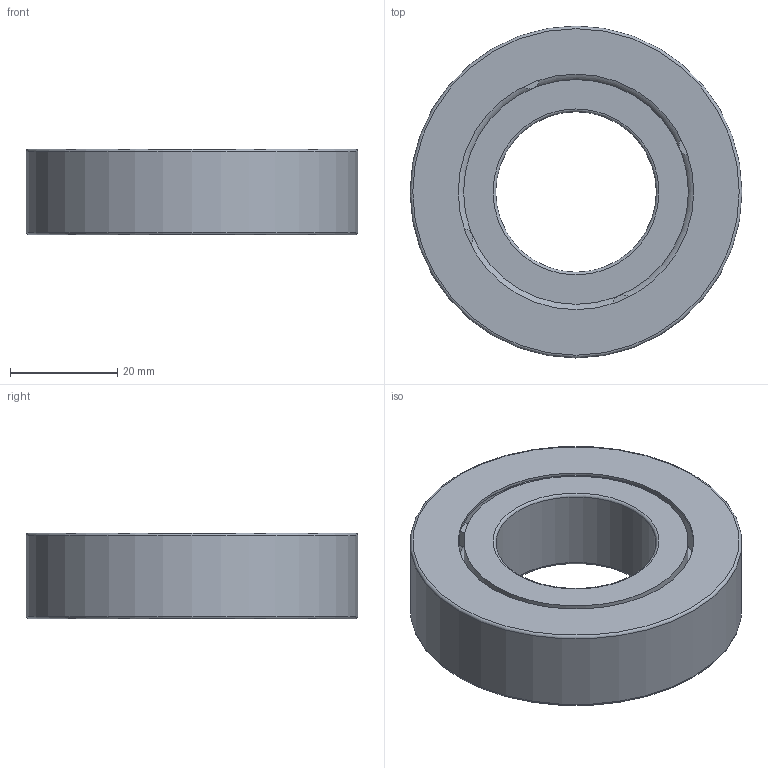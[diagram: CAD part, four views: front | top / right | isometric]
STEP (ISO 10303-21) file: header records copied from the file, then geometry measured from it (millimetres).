
FILE_DESCRIPTION(/* description */ (''),/* implementation_level */ '2;1');
FILE_NAME(/* name */ '301074 FK 6206.stp',/* time_stamp */ '2016-11-18T11:54:10+01:00',/* author */ (''),/* organization */ (''),/* preprocessor_version */ 'ST-DEVELOPER v15',/* originating_system */ 'SIEMENS PLM Software NX 8.5',/* authorisation */ '');
FILE_SCHEMA (('CONFIG_CONTROL_DESIGN'));
Length unit declared in the file: millimetre
Products named in the file (3): ATE0000079_01; ATE0000108_01; ATE0000109_01
Assembly tree (2 placements, depth 2):
  ATE0000109_01
    ATE0000108_01
    ATE0000079_01
Bounding box: 62 x 62 x 16 mm (x, y, z)
Volume: 31662.8 mm3; surface area: 16525.3 mm2
Topology: 2 solids, 2 shells, 66 faces, 147 edges, 96 vertices
Faces by surface type: plane 41, cylinder 19, torus 6
Full cylindrical faces by diameter (mm): 30 x1, 42 x2, 44 x1, 46 x1, 48 x1, 49 x2, 50 x2, 62 x1
Entity records: 2006 total; most frequent: DIRECTION 318, CARTESIAN_POINT 281, ORIENTED_EDGE 244, AXIS2_PLACEMENT_3D 127, EDGE_CURVE 122, EDGE_LOOP 100, VERTEX_POINT 90, ADVANCED_FACE 66
